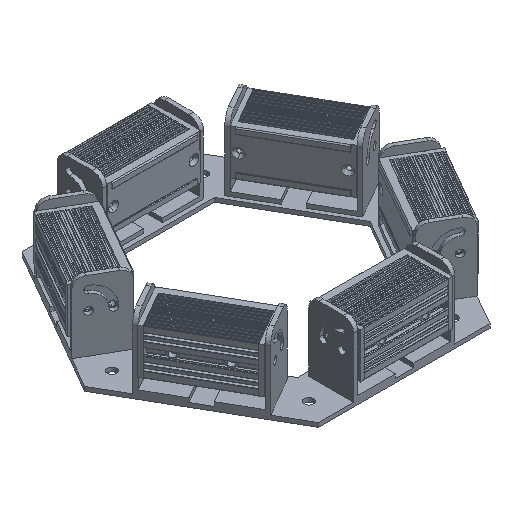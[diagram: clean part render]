
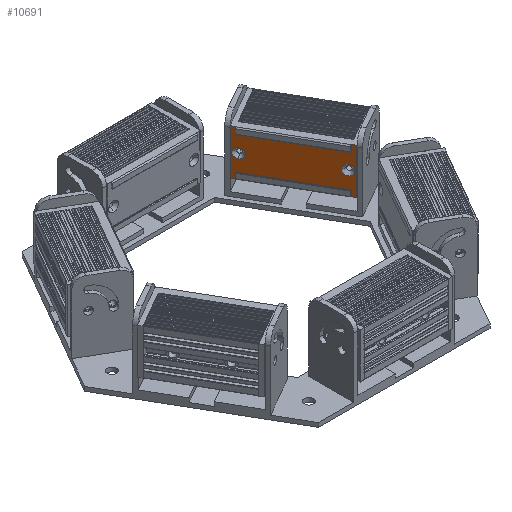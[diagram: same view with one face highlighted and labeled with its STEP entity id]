
A CAD part, isometric view. The second image highlights one B-rep face of the part: STEP entity #10691.
In plain terms, the highlighted planar face has unit normal (-0.866, -0.5, 0) as drawn and (0, 1, 0) by its records, which use the part's own axes.
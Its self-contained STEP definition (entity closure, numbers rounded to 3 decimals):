
#6743=DIRECTION('',(-1.,0.,0.));
#6744=VECTOR('',#6743,2.8);
#6745=CARTESIAN_POINT('',(-8.2,11.402,-20.5));
#6746=LINE('',#6745,#6744);
#6747=DIRECTION('',(0.,0.,1.));
#6748=VECTOR('',#6747,2.);
#6749=CARTESIAN_POINT('',(11.,11.402,-22.5));
#6750=LINE('',#6749,#6748);
#6751=DIRECTION('',(-1.,0.,0.));
#6752=VECTOR('',#6751,2.8);
#6753=CARTESIAN_POINT('',(11.,11.402,-20.5));
#6754=LINE('',#6753,#6752);
#6755=DIRECTION('',(0.,0.,-1.));
#6756=VECTOR('',#6755,2.);
#6757=CARTESIAN_POINT('',(-11.,11.402,22.5));
#6758=LINE('',#6757,#6756);
#6759=CARTESIAN_POINT('',(0.,11.402,-19.5));
#6760=DIRECTION('',(0.,1.,0.));
#6761=DIRECTION('',(-1.,0.,0.));
#6762=AXIS2_PLACEMENT_3D('',#6759,#6760,#6761);
#6764=CARTESIAN_POINT('',(0.,11.402,-19.5));
#6765=DIRECTION('',(0.,1.,0.));
#6766=DIRECTION('',(0.,0.,1.));
#6767=AXIS2_PLACEMENT_3D('',#6764,#6765,#6766);
#6769=CARTESIAN_POINT('',(0.,11.402,-19.5));
#6770=DIRECTION('',(0.,1.,0.));
#6771=DIRECTION('',(1.,0.,0.));
#6772=AXIS2_PLACEMENT_3D('',#6769,#6770,#6771);
#6774=CARTESIAN_POINT('',(0.,11.402,-19.5));
#6775=DIRECTION('',(0.,1.,0.));
#6776=DIRECTION('',(0.,0.,-1.));
#6777=AXIS2_PLACEMENT_3D('',#6774,#6775,#6776);
#6779=CARTESIAN_POINT('',(0.,11.402,19.5));
#6780=DIRECTION('',(0.,1.,0.));
#6781=DIRECTION('',(0.,0.,1.));
#6782=AXIS2_PLACEMENT_3D('',#6779,#6780,#6781);
#6784=CARTESIAN_POINT('',(0.,11.402,19.5));
#6785=DIRECTION('',(0.,1.,0.));
#6786=DIRECTION('',(0.,0.,-1.));
#6787=AXIS2_PLACEMENT_3D('',#6784,#6785,#6786);
#6789=DIRECTION('',(0.,0.,1.));
#6790=VECTOR('',#6789,41.);
#6791=CARTESIAN_POINT('',(-8.2,11.402,-20.5));
#6792=LINE('',#6791,#6790);
#6823=DIRECTION('',(-1.,0.,0.));
#6824=VECTOR('',#6823,2.8);
#6825=CARTESIAN_POINT('',(-8.2,11.402,20.5));
#6826=LINE('',#6825,#6824);
#6831=DIRECTION('',(0.,0.,1.));
#6832=VECTOR('',#6831,2.);
#6833=CARTESIAN_POINT('',(-11.,11.402,-22.5));
#6834=LINE('',#6833,#6832);
#7351=DIRECTION('',(1.,0.,0.));
#7352=VECTOR('',#7351,22.);
#7353=CARTESIAN_POINT('',(-11.,11.402,22.5));
#7354=LINE('',#7353,#7352);
#7423=DIRECTION('',(0.,0.,-1.));
#7424=VECTOR('',#7423,2.);
#7425=CARTESIAN_POINT('',(11.,11.402,22.5));
#7426=LINE('',#7425,#7424);
#7533=DIRECTION('',(-1.,0.,0.));
#7534=VECTOR('',#7533,2.8);
#7535=CARTESIAN_POINT('',(11.,11.402,20.5));
#7536=LINE('',#7535,#7534);
#7563=DIRECTION('',(0.,0.,-1.));
#7564=VECTOR('',#7563,41.);
#7565=CARTESIAN_POINT('',(8.2,11.402,20.5));
#7566=LINE('',#7565,#7564);
#7583=DIRECTION('',(-1.,0.,0.));
#7584=VECTOR('',#7583,22.);
#7585=CARTESIAN_POINT('',(11.,11.402,-22.5));
#7586=LINE('',#7585,#7584);
#9717=CARTESIAN_POINT('',(-8.2,11.402,-20.5));
#9718=CARTESIAN_POINT('',(-11.,11.402,-20.5));
#9719=VERTEX_POINT('',#9717);
#9720=VERTEX_POINT('',#9718);
#9731=CARTESIAN_POINT('',(11.,11.402,-20.5));
#9732=CARTESIAN_POINT('',(8.2,11.402,-20.5));
#9733=VERTEX_POINT('',#9731);
#9734=VERTEX_POINT('',#9732);
#9745=CARTESIAN_POINT('',(-8.2,11.402,20.5));
#9746=VERTEX_POINT('',#9745);
#9747=CARTESIAN_POINT('',(-11.,11.402,-22.5));
#9748=VERTEX_POINT('',#9747);
#9749=CARTESIAN_POINT('',(11.,11.402,-22.5));
#9750=VERTEX_POINT('',#9749);
#9751=CARTESIAN_POINT('',(8.2,11.402,20.5));
#9752=VERTEX_POINT('',#9751);
#9753=CARTESIAN_POINT('',(11.,11.402,20.5));
#9754=VERTEX_POINT('',#9753);
#9755=CARTESIAN_POINT('',(11.,11.402,22.5));
#9756=VERTEX_POINT('',#9755);
#9757=CARTESIAN_POINT('',(-11.,11.402,22.5));
#9758=VERTEX_POINT('',#9757);
#9759=CARTESIAN_POINT('',(-11.,11.402,20.5));
#9760=VERTEX_POINT('',#9759);
#9761=CARTESIAN_POINT('',(0.,11.402,-17.1));
#9762=CARTESIAN_POINT('',(2.4,11.402,-19.5));
#9763=VERTEX_POINT('',#9761);
#9764=VERTEX_POINT('',#9762);
#9765=CARTESIAN_POINT('',(-2.4,11.402,-19.5));
#9766=VERTEX_POINT('',#9765);
#9767=CARTESIAN_POINT('',(0.,11.402,-21.9));
#9768=VERTEX_POINT('',#9767);
#9769=CARTESIAN_POINT('',(0.,11.402,21.9));
#9770=CARTESIAN_POINT('',(0.,11.402,17.1));
#9771=VERTEX_POINT('',#9769);
#9772=VERTEX_POINT('',#9770);
#10645=CARTESIAN_POINT('',(8.2,11.402,-20.5));
#10646=DIRECTION('',(0.,1.,0.));
#10647=DIRECTION('',(-1.,0.,0.));
#10648=AXIS2_PLACEMENT_3D('',#10645,#10646,#10647);
#10649=PLANE('',#10648);
#10651=ORIENTED_EDGE('',*,*,#10650,.F.);
#10652=ORIENTED_EDGE('',*,*,#10628,.T.);
#10654=ORIENTED_EDGE('',*,*,#10653,.F.);
#10656=ORIENTED_EDGE('',*,*,#10655,.F.);
#10658=ORIENTED_EDGE('',*,*,#10657,.T.);
#10660=ORIENTED_EDGE('',*,*,#10659,.T.);
#10662=ORIENTED_EDGE('',*,*,#10661,.F.);
#10664=ORIENTED_EDGE('',*,*,#10663,.F.);
#10666=ORIENTED_EDGE('',*,*,#10665,.F.);
#10668=ORIENTED_EDGE('',*,*,#10667,.F.);
#10670=ORIENTED_EDGE('',*,*,#10669,.T.);
#10672=ORIENTED_EDGE('',*,*,#10671,.F.);
#10673=EDGE_LOOP('',(#10651,#10652,#10654,#10656,#10658,#10660,#10662,#10664,
#10666,#10668,#10670,#10672));
#10674=FACE_OUTER_BOUND('',#10673,.F.);
#10676=ORIENTED_EDGE('',*,*,#10675,.T.);
#10678=ORIENTED_EDGE('',*,*,#10677,.T.);
#10680=ORIENTED_EDGE('',*,*,#10679,.T.);
#10682=ORIENTED_EDGE('',*,*,#10681,.T.);
#10683=EDGE_LOOP('',(#10676,#10678,#10680,#10682));
#10684=FACE_BOUND('',#10683,.F.);
#10686=ORIENTED_EDGE('',*,*,#10685,.T.);
#10688=ORIENTED_EDGE('',*,*,#10687,.T.);
#10689=EDGE_LOOP('',(#10686,#10688));
#10690=FACE_BOUND('',#10689,.F.);
#6763=CIRCLE('',#6762,2.4);
#6768=CIRCLE('',#6767,2.4);
#6773=CIRCLE('',#6772,2.4);
#6778=CIRCLE('',#6777,2.4);
#6783=CIRCLE('',#6782,2.4);
#6788=CIRCLE('',#6787,2.4);
#10628=EDGE_CURVE('',#9719,#9720,#6746,.T.);
#10650=EDGE_CURVE('',#9719,#9746,#6792,.T.);
#10653=EDGE_CURVE('',#9748,#9720,#6834,.T.);
#10655=EDGE_CURVE('',#9750,#9748,#7586,.T.);
#10657=EDGE_CURVE('',#9750,#9733,#6750,.T.);
#10659=EDGE_CURVE('',#9733,#9734,#6754,.T.);
#10661=EDGE_CURVE('',#9752,#9734,#7566,.T.);
#10663=EDGE_CURVE('',#9754,#9752,#7536,.T.);
#10665=EDGE_CURVE('',#9756,#9754,#7426,.T.);
#10667=EDGE_CURVE('',#9758,#9756,#7354,.T.);
#10669=EDGE_CURVE('',#9758,#9760,#6758,.T.);
#10671=EDGE_CURVE('',#9746,#9760,#6826,.T.);
#10675=EDGE_CURVE('',#9766,#9763,#6763,.T.);
#10677=EDGE_CURVE('',#9763,#9764,#6768,.T.);
#10679=EDGE_CURVE('',#9764,#9768,#6773,.T.);
#10681=EDGE_CURVE('',#9768,#9766,#6778,.T.);
#10685=EDGE_CURVE('',#9771,#9772,#6783,.T.);
#10687=EDGE_CURVE('',#9772,#9771,#6788,.T.);
#10691=ADVANCED_FACE('',(#10674,#10684,#10690),#10649,.T.);
